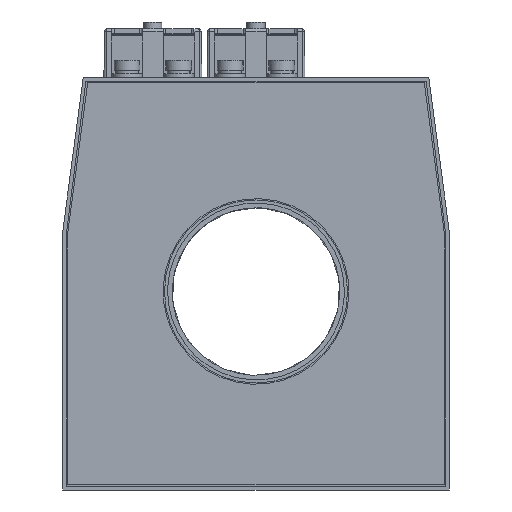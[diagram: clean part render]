
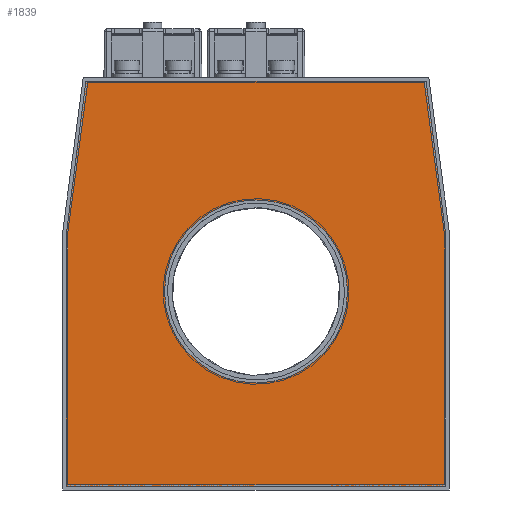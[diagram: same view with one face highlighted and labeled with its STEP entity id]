
A CAD part, top view. The second image highlights one B-rep face of the part: STEP entity #1839.
In plain terms, the highlighted planar face has unit normal (0, 0, 1).
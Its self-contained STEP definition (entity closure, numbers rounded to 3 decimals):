
#1839=ADVANCED_FACE('',(#3641,#3643),#3645,.T.);
#3641=FACE_BOUND('',#3642,.T.);
#3642=EDGE_LOOP('',(#5794,#5795,#5796,#5797,#5798,#5799));
#3643=FACE_BOUND('',#3644,.T.);
#3644=EDGE_LOOP('',(#5800));
#3645=PLANE('',#3646);
#3646=AXIS2_PLACEMENT_3D('',#3647,#3648,#3649);
#3647=CARTESIAN_POINT('',(0.,0.,5.));
#3648=DIRECTION('',(0.,0.,1.));
#3649=DIRECTION('',(1.,0.,0.));
#5794=ORIENTED_EDGE('',*,*,#6461,.T.);
#5795=ORIENTED_EDGE('',*,*,#6462,.T.);
#5796=ORIENTED_EDGE('',*,*,#6463,.T.);
#5797=ORIENTED_EDGE('',*,*,#6464,.T.);
#5798=ORIENTED_EDGE('',*,*,#6465,.T.);
#5799=ORIENTED_EDGE('',*,*,#6466,.T.);
#5800=ORIENTED_EDGE('',*,*,#6467,.T.);
#6461=EDGE_CURVE('',#6982,#6983,#6984,.T.);
#6462=EDGE_CURVE('',#6983,#6985,#6986,.T.);
#6463=EDGE_CURVE('',#6985,#6987,#6988,.T.);
#6464=EDGE_CURVE('',#6987,#6989,#6990,.T.);
#6465=EDGE_CURVE('',#6989,#6991,#6992,.T.);
#6466=EDGE_CURVE('',#6991,#6982,#6993,.T.);
#6467=EDGE_CURVE('',#6994,#6994,#6995,.F.);
#6982=VERTEX_POINT('',#8043);
#6983=VERTEX_POINT('',#8044);
#6984=LINE('',#8045,#8046);
#6985=VERTEX_POINT('',#8048);
#6986=LINE('',#8049,#8050);
#6987=VERTEX_POINT('',#8052);
#6988=LINE('',#8053,#8054);
#6989=VERTEX_POINT('',#8056);
#6990=LINE('',#8057,#8058);
#6991=VERTEX_POINT('',#8060);
#6992=LINE('',#8061,#8062);
#6993=LINE('',#8064,#8065);
#6994=VERTEX_POINT('',#8067);
#6995=CIRCLE('',#8068,35.5);
#8043=CARTESIAN_POINT('',(-73.5,19.815,5.));
#8044=CARTESIAN_POINT('',(-73.5,-78.5,5.));
#8045=CARTESIAN_POINT('',(-73.5,19.815,5.));
#8046=VECTOR('',#8047,1.);
#8047=DIRECTION('',(0.,-1.,0.));
#8048=CARTESIAN_POINT('',(73.5,-78.5,5.));
#8049=CARTESIAN_POINT('',(-73.5,-78.5,5.));
#8050=VECTOR('',#8051,1.);
#8051=DIRECTION('',(1.,0.,0.));
#8052=CARTESIAN_POINT('',(73.5,19.815,5.));
#8053=CARTESIAN_POINT('',(73.5,-78.5,5.));
#8054=VECTOR('',#8055,1.);
#8055=DIRECTION('',(0.,1.,0.));
#8056=CARTESIAN_POINT('',(66.,78.5,5.));
#8057=CARTESIAN_POINT('',(73.5,19.815,5.));
#8058=VECTOR('',#8059,1.);
#8059=DIRECTION('',(-0.127,0.992,0.));
#8060=CARTESIAN_POINT('',(-66.,78.5,5.));
#8061=CARTESIAN_POINT('',(66.,78.5,5.));
#8062=VECTOR('',#8063,1.);
#8063=DIRECTION('',(-1.,0.,0.));
#8064=CARTESIAN_POINT('',(-66.,78.5,5.));
#8065=VECTOR('',#8066,1.);
#8066=DIRECTION('',(-0.127,-0.992,0.));
#8067=CARTESIAN_POINT('',(35.5,-3.,5.));
#8068=AXIS2_PLACEMENT_3D('',#8069,#8070,#8071);
#8069=CARTESIAN_POINT('',(0.,-3.,5.));
#8070=DIRECTION('',(0.,0.,1.));
#8071=DIRECTION('',(1.,0.,0.));
